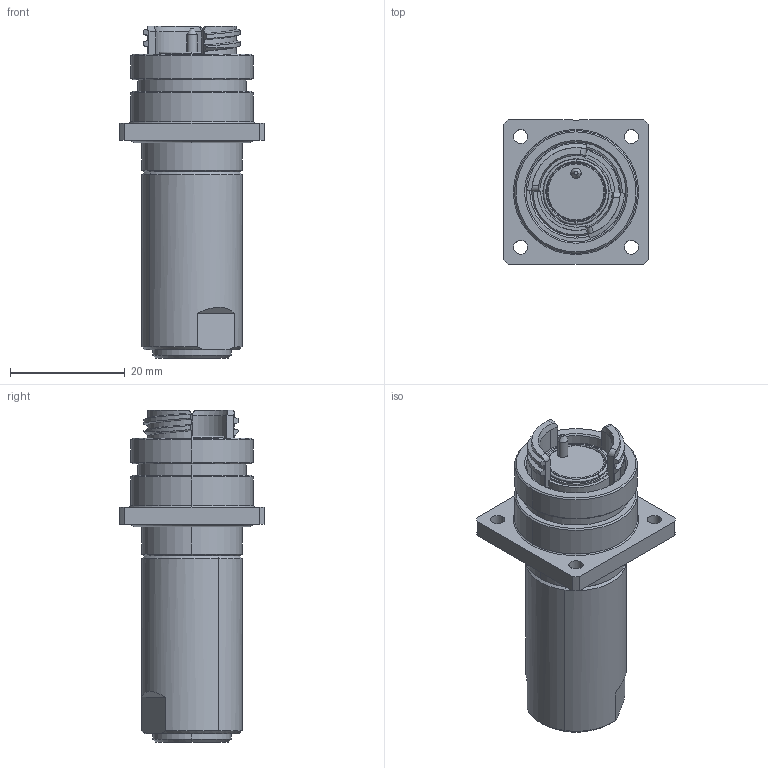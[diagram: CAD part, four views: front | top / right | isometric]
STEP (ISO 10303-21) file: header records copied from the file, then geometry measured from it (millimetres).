
FILE_DESCRIPTION (( 'STEP AP214' ), '1' );
FILE_NAME ('QMICRO-RFXX-XXXX-LXX.STEP', '2025-05-02T23:44:11', ( '' ), ( '' ), 'SwSTEP 2.0', 'SolidWorks 2024', '' );
FILE_SCHEMA (( 'AUTOMOTIVE_DESIGN' ));
Length unit declared in the file: inch
Products named in the file (1): QMICRO-RFXX-XXXX-LXX
Bounding box: 25.25 x 25.25 x 57.83 mm (x, y, z)
Volume: 14480 mm3; surface area: 6647.2 mm2
Topology: 1 solids, 2 shells, 199 faces, 473 edges, 295 vertices
Faces by surface type: cylinder 78, plane 44, cone 41, torus 20, bspline 16
Entity records: 8919 total; most frequent: CARTESIAN_POINT 4372, DIRECTION 960, ORIENTED_EDGE 946, EDGE_CURVE 473, AXIS2_PLACEMENT_3D 397, VERTEX_POINT 295, EDGE_LOOP 226, CIRCLE 213
